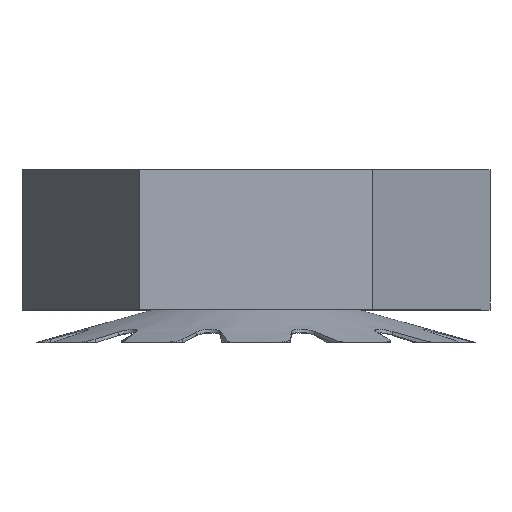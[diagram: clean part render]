
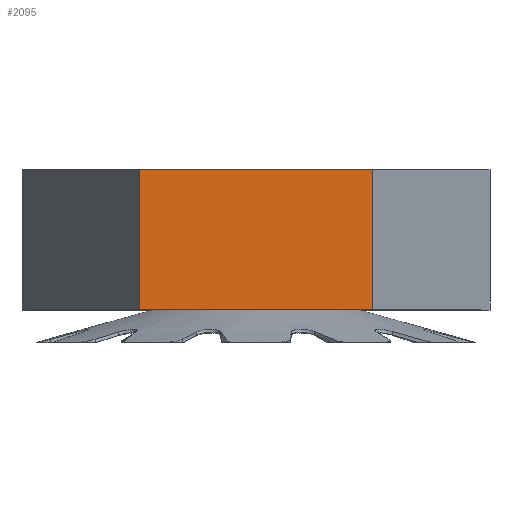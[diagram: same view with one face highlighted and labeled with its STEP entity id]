
A CAD part, top view. The second image highlights one B-rep face of the part: STEP entity #2095.
In plain terms, the highlighted planar face has unit normal (0, 0, 1).
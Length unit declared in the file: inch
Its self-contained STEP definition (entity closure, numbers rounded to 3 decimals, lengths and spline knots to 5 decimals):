
#207=DIRECTION('',(1.,0.,0.));
#208=VECTOR('',#207,0.21649);
#209=CARTESIAN_POINT('',(-0.10825,0.,0.1875));
#210=LINE('',#209,#208);
#245=DIRECTION('',(0.,1.,0.));
#246=VECTOR('',#245,0.13);
#247=CARTESIAN_POINT('',(0.10825,0.,0.1875));
#248=LINE('',#247,#246);
#249=DIRECTION('',(0.,1.,0.));
#250=VECTOR('',#249,0.13);
#251=CARTESIAN_POINT('',(-0.10825,0.,0.1875));
#252=LINE('',#251,#250);
#273=DIRECTION('',(1.,0.,0.));
#274=VECTOR('',#273,0.21649);
#275=CARTESIAN_POINT('',(-0.10825,0.13,0.1875));
#276=LINE('',#275,#274);
#1739=CARTESIAN_POINT('',(-0.10825,0.,0.1875));
#1740=VERTEX_POINT('',#1739);
#1741=CARTESIAN_POINT('',(0.10825,0.,0.1875));
#1742=VERTEX_POINT('',#1741);
#1751=CARTESIAN_POINT('',(-0.10825,0.13,0.1875));
#1752=VERTEX_POINT('',#1751);
#1753=CARTESIAN_POINT('',(0.10825,0.13,0.1875));
#1754=VERTEX_POINT('',#1753);
#2082=CARTESIAN_POINT('',(-0.10825,0.,0.1875));
#2083=DIRECTION('',(0.,0.,1.));
#2084=DIRECTION('',(1.,0.,0.));
#2085=AXIS2_PLACEMENT_3D('',#2082,#2083,#2084);
#2086=PLANE('',#2085);
#2087=ORIENTED_EDGE('',*,*,#2008,.F.);
#2089=ORIENTED_EDGE('',*,*,#2088,.T.);
#2091=ORIENTED_EDGE('',*,*,#2090,.T.);
#2092=ORIENTED_EDGE('',*,*,#2074,.F.);
#2093=EDGE_LOOP('',(#2087,#2089,#2091,#2092));
#2094=FACE_OUTER_BOUND('',#2093,.F.);
#2008=EDGE_CURVE('',#1740,#1742,#210,.T.);
#2074=EDGE_CURVE('',#1742,#1754,#248,.T.);
#2088=EDGE_CURVE('',#1740,#1752,#252,.T.);
#2090=EDGE_CURVE('',#1752,#1754,#276,.T.);
#2095=ADVANCED_FACE('',(#2094),#2086,.T.);
